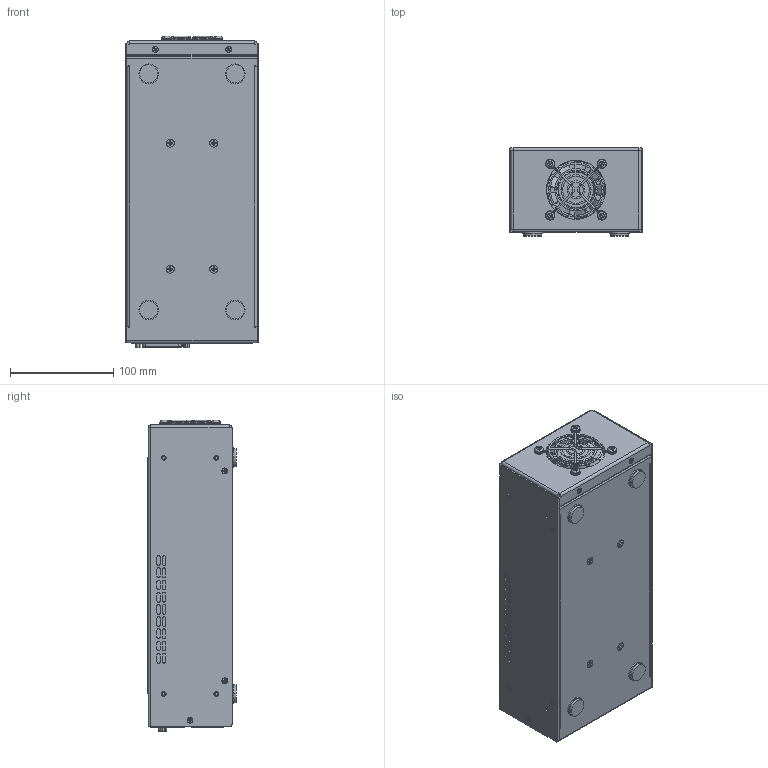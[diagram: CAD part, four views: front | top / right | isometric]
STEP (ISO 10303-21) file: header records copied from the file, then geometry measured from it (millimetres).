
FILE_DESCRIPTION (( 'STEP AP214' ), '1' );
FILE_NAME ('Step 4 - 586 TECPak TLA.STEP', '2018-10-12T16:50:35', ( '' ), ( '' ), 'SwSTEP 2.0', 'SolidWorks 2018', '' );
FILE_SCHEMA (( 'AUTOMOTIVE_DESIGN' ));
Length unit declared in the file: inch
Products named in the file (1): Step 4 - 586 TECPak TLA
Bounding box: 129.54 x 85.6 x 301.41 mm (x, y, z)
Volume: 3039079.9 mm3; surface area: 176373.2 mm2
Topology: 6 solids, 7 shells, 4015 faces, 10472 edges, 6829 vertices
Faces by surface type: plane 2099, bspline 881, cylinder 681, cone 245, torus 97, sphere 12
Entity records: 197964 total; most frequent: CARTESIAN_POINT 64435, ORIENTED_EDGE 20848, DIRECTION 16349, EDGE_CURVE 10424, VERTEX_POINT 6829, VECTOR 6095, LINE 6095, AXIS2_PLACEMENT_3D 5127
